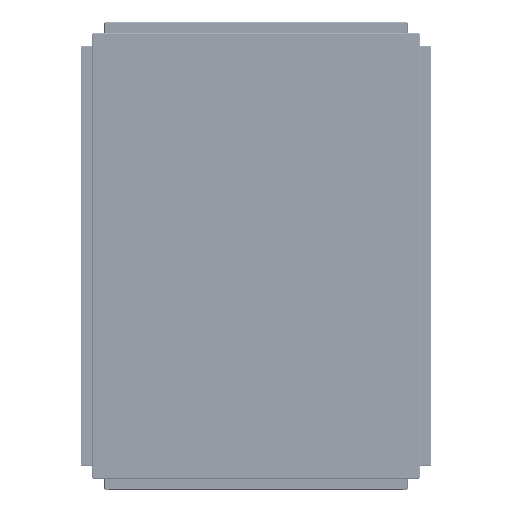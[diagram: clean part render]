
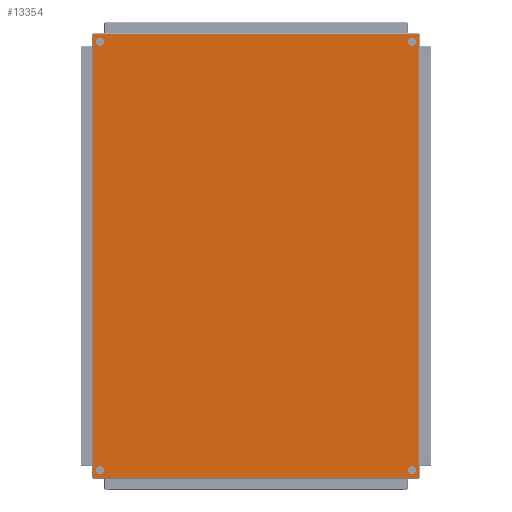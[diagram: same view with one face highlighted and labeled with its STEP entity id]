
A CAD part, left-side view. The second image highlights one B-rep face of the part: STEP entity #13354.
In plain terms, the highlighted planar face has unit normal (-1, 0, 0) as drawn and (0, 0, -1) by its records, which use the part's own axes.
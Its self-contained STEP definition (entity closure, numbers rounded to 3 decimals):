
#480 = DIRECTION ( 'NONE',  ( 1., 0., 0. ) ) ;
#727 = CARTESIAN_POINT ( 'NONE',  ( -379., -279., -1.5 ) ) ;
#1775 = ORIENTED_EDGE ( 'NONE', *, *, #24402, .F. ) ;
#4611 = AXIS2_PLACEMENT_3D ( 'NONE', #58855, #15838, #52711 ) ;
#4657 = PLANE ( 'NONE',  #23946 ) ;
#4815 = EDGE_CURVE ( 'NONE', #12637, #60144, #43620, .T. ) ;
#5216 = AXIS2_PLACEMENT_3D ( 'NONE', #41979, #54457, #17837 ) ;
#6008 = FACE_BOUND ( 'NONE', #69596, .T. ) ;
#6162 = AXIS2_PLACEMENT_3D ( 'NONE', #6684, #49763, #68917 ) ;
#6230 = EDGE_CURVE ( 'NONE', #78924, #78964, #46729, .T. ) ;
#6284 = CARTESIAN_POINT ( 'NONE',  ( -366.42, 266.42, -1.5 ) ) ;
#6684 = CARTESIAN_POINT ( 'NONE',  ( 366.42, -266.42, -1.5 ) ) ;
#6697 = CIRCLE ( 'NONE', #39590, 6.75 ) ;
#6718 = EDGE_CURVE ( 'NONE', #15762, #57456, #14909, .T. ) ;
#6739 = CARTESIAN_POINT ( 'NONE',  ( 379., 279., -1.5 ) ) ;
#7572 = DIRECTION ( 'NONE',  ( 0., 0., -1. ) ) ;
#9126 = CARTESIAN_POINT ( 'NONE',  ( -373.17, 266.42, -1.5 ) ) ;
#10212 = CIRCLE ( 'NONE', #54781, 6.75 ) ;
#10264 = EDGE_CURVE ( 'NONE', #60144, #12637, #38472, .T. ) ;
#11502 = EDGE_LOOP ( 'NONE', ( #79199, #24935 ) ) ;
#12637 = VERTEX_POINT ( 'NONE', #9126 ) ;
#12728 = DIRECTION ( 'NONE',  ( -1., 0., 0. ) ) ;
#13297 = LINE ( 'NONE', #48667, #74469 ) ;
#13353 = DIRECTION ( 'NONE',  ( 1., 0., 0. ) ) ;
#13354 = ADVANCED_FACE ( 'NONE', ( #42453, #48198, #6008, #74859, #68212 ), #4657, .F. ) ;
#13778 = CARTESIAN_POINT ( 'NONE',  ( 379., 279., -1.5 ) ) ;
#13862 = CIRCLE ( 'NONE', #4611, 6.75 ) ;
#14219 = EDGE_CURVE ( 'NONE', #72813, #57760, #45117, .T. ) ;
#14909 = CIRCLE ( 'NONE', #5216, 6.75 ) ;
#15748 = VERTEX_POINT ( 'NONE', #6739 ) ;
#15762 = VERTEX_POINT ( 'NONE', #31398 ) ;
#15838 = DIRECTION ( 'NONE',  ( 0., 0., -1. ) ) ;
#16448 = ORIENTED_EDGE ( 'NONE', *, *, #6230, .F. ) ;
#17837 = DIRECTION ( 'NONE',  ( 1., 0., 0. ) ) ;
#18372 = DIRECTION ( 'NONE',  ( 0., 0., -1. ) ) ;
#20848 = CARTESIAN_POINT ( 'NONE',  ( 373.17, -266.42, -1.5 ) ) ;
#21423 = ORIENTED_EDGE ( 'NONE', *, *, #4815, .F. ) ;
#22926 = EDGE_LOOP ( 'NONE', ( #40243, #26717, #33142, #46035 ) ) ;
#23591 = CARTESIAN_POINT ( 'NONE',  ( -379., 279., -1.5 ) ) ;
#23946 = AXIS2_PLACEMENT_3D ( 'NONE', #29075, #28543, #47510 ) ;
#24402 = EDGE_CURVE ( 'NONE', #78964, #78924, #13862, .T. ) ;
#24559 = EDGE_CURVE ( 'NONE', #63311, #72813, #52059, .T. ) ;
#24935 = ORIENTED_EDGE ( 'NONE', *, *, #40646, .F. ) ;
#24977 = ORIENTED_EDGE ( 'NONE', *, *, #6718, .F. ) ;
#24996 = VECTOR ( 'NONE', #55739, 1000. ) ;
#25068 = VECTOR ( 'NONE', #38188, 1000. ) ;
#25408 = DIRECTION ( 'NONE',  ( 0., 0., -1. ) ) ;
#25793 = DIRECTION ( 'NONE',  ( -1., 0., 0. ) ) ;
#26367 = CARTESIAN_POINT ( 'NONE',  ( -373.17, -266.42, -1.5 ) ) ;
#26717 = ORIENTED_EDGE ( 'NONE', *, *, #33356, .F. ) ;
#28077 = CARTESIAN_POINT ( 'NONE',  ( 373.17, 266.42, -1.5 ) ) ;
#28543 = DIRECTION ( 'NONE',  ( 0., 0., 1. ) ) ;
#29075 = CARTESIAN_POINT ( 'NONE',  ( 0., 0., -1.5 ) ) ;
#31398 = CARTESIAN_POINT ( 'NONE',  ( 359.67, 266.42, -1.5 ) ) ;
#31550 = DIRECTION ( 'NONE',  ( 1., 0., 0. ) ) ;
#33142 = ORIENTED_EDGE ( 'NONE', *, *, #38539, .F. ) ;
#33356 = EDGE_CURVE ( 'NONE', #15748, #63311, #13297, .T. ) ;
#33456 = EDGE_LOOP ( 'NONE', ( #24977, #52202 ) ) ;
#34546 = CARTESIAN_POINT ( 'NONE',  ( 359.67, -266.42, -1.5 ) ) ;
#35963 = DIRECTION ( 'NONE',  ( 0., -1., 0. ) ) ;
#37734 = VECTOR ( 'NONE', #35963, 1000. ) ;
#38188 = DIRECTION ( 'NONE',  ( 0., 1., 0. ) ) ;
#38472 = CIRCLE ( 'NONE', #64209, 6.75 ) ;
#38539 = EDGE_CURVE ( 'NONE', #57760, #15748, #69028, .T. ) ;
#39590 = AXIS2_PLACEMENT_3D ( 'NONE', #75020, #25408, #31550 ) ;
#40243 = ORIENTED_EDGE ( 'NONE', *, *, #24559, .F. ) ;
#40646 = EDGE_CURVE ( 'NONE', #72674, #74386, #6697, .T. ) ;
#41979 = CARTESIAN_POINT ( 'NONE',  ( 366.42, 266.42, -1.5 ) ) ;
#42453 = FACE_BOUND ( 'NONE', #11502, .T. ) ;
#42528 = CARTESIAN_POINT ( 'NONE',  ( 366.42, 266.42, -1.5 ) ) ;
#42549 = DIRECTION ( 'NONE',  ( -1., 0., 0. ) ) ;
#43620 = CIRCLE ( 'NONE', #44043, 6.75 ) ;
#43887 = CARTESIAN_POINT ( 'NONE',  ( -366.42, -266.42, -1.5 ) ) ;
#44043 = AXIS2_PLACEMENT_3D ( 'NONE', #6284, #67729, #12728 ) ;
#44521 = EDGE_CURVE ( 'NONE', #57456, #15762, #64027, .T. ) ;
#45117 = LINE ( 'NONE', #74195, #24996 ) ;
#46035 = ORIENTED_EDGE ( 'NONE', *, *, #14219, .F. ) ;
#46729 = CIRCLE ( 'NONE', #6162, 6.75 ) ;
#47510 = DIRECTION ( 'NONE',  ( 1., 0., 0. ) ) ;
#48198 = FACE_BOUND ( 'NONE', #33456, .T. ) ;
#48667 = CARTESIAN_POINT ( 'NONE',  ( -379., 279., -1.5 ) ) ;
#49763 = DIRECTION ( 'NONE',  ( 0., 0., -1. ) ) ;
#49771 = CARTESIAN_POINT ( 'NONE',  ( -359.67, 266.42, -1.5 ) ) ;
#52059 = LINE ( 'NONE', #23591, #37734 ) ;
#52202 = ORIENTED_EDGE ( 'NONE', *, *, #44521, .F. ) ;
#52711 = DIRECTION ( 'NONE',  ( -1., 0., 0. ) ) ;
#54249 = ORIENTED_EDGE ( 'NONE', *, *, #10264, .F. ) ;
#54457 = DIRECTION ( 'NONE',  ( 0., 0., -1. ) ) ;
#54781 = AXIS2_PLACEMENT_3D ( 'NONE', #43887, #62228, #13353 ) ;
#55464 = CARTESIAN_POINT ( 'NONE',  ( 379., -279., -1.5 ) ) ;
#55739 = DIRECTION ( 'NONE',  ( 1., 0., 0. ) ) ;
#57456 = VERTEX_POINT ( 'NONE', #28077 ) ;
#57760 = VERTEX_POINT ( 'NONE', #55464 ) ;
#58855 = CARTESIAN_POINT ( 'NONE',  ( 366.42, -266.42, -1.5 ) ) ;
#59075 = CARTESIAN_POINT ( 'NONE',  ( -379., 279., -1.5 ) ) ;
#60144 = VERTEX_POINT ( 'NONE', #49771 ) ;
#62228 = DIRECTION ( 'NONE',  ( 0., 0., -1. ) ) ;
#62342 = EDGE_LOOP ( 'NONE', ( #21423, #54249 ) ) ;
#63311 = VERTEX_POINT ( 'NONE', #59075 ) ;
#64027 = CIRCLE ( 'NONE', #77643, 6.75 ) ;
#64209 = AXIS2_PLACEMENT_3D ( 'NONE', #74628, #7572, #25793 ) ;
#67259 = CARTESIAN_POINT ( 'NONE',  ( -359.67, -266.42, -1.5 ) ) ;
#67729 = DIRECTION ( 'NONE',  ( 0., 0., -1. ) ) ;
#68212 = FACE_OUTER_BOUND ( 'NONE', #22926, .T. ) ;
#68476 = EDGE_CURVE ( 'NONE', #74386, #72674, #10212, .T. ) ;
#68917 = DIRECTION ( 'NONE',  ( -1., 0., 0. ) ) ;
#69028 = LINE ( 'NONE', #13778, #25068 ) ;
#69596 = EDGE_LOOP ( 'NONE', ( #1775, #16448 ) ) ;
#72674 = VERTEX_POINT ( 'NONE', #67259 ) ;
#72813 = VERTEX_POINT ( 'NONE', #727 ) ;
#74195 = CARTESIAN_POINT ( 'NONE',  ( -379., -279., -1.5 ) ) ;
#74386 = VERTEX_POINT ( 'NONE', #26367 ) ;
#74469 = VECTOR ( 'NONE', #42549, 1000. ) ;
#74628 = CARTESIAN_POINT ( 'NONE',  ( -366.42, 266.42, -1.5 ) ) ;
#74859 = FACE_BOUND ( 'NONE', #62342, .T. ) ;
#75020 = CARTESIAN_POINT ( 'NONE',  ( -366.42, -266.42, -1.5 ) ) ;
#77643 = AXIS2_PLACEMENT_3D ( 'NONE', #42528, #18372, #480 ) ;
#78924 = VERTEX_POINT ( 'NONE', #20848 ) ;
#78964 = VERTEX_POINT ( 'NONE', #34546 ) ;
#79199 = ORIENTED_EDGE ( 'NONE', *, *, #68476, .F. ) ;
